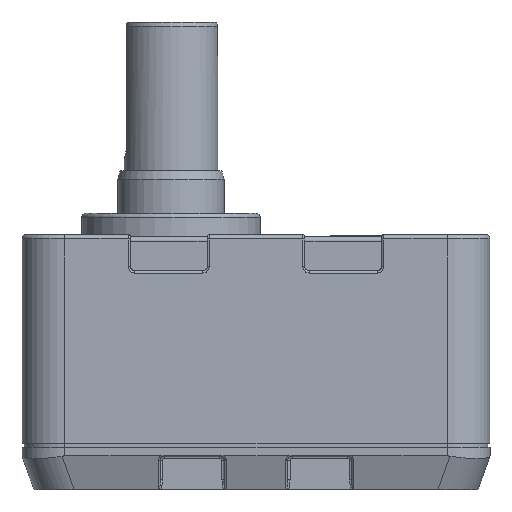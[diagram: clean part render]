
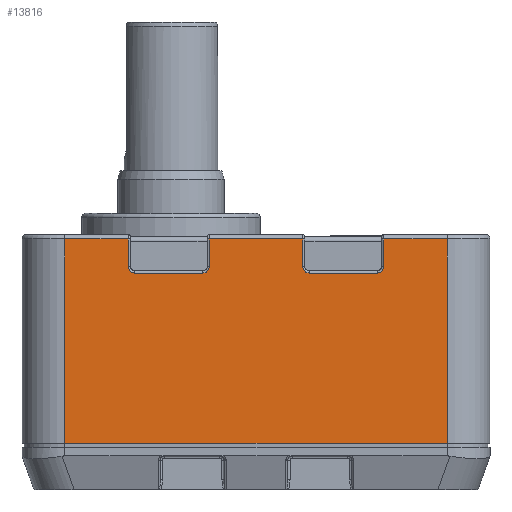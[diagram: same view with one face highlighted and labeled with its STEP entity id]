
A CAD part, left-side view. The second image highlights one B-rep face of the part: STEP entity #13816.
In plain terms, the highlighted planar face has unit normal (-1, 0, 0).
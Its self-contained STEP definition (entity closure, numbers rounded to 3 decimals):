
#9999=CARTESIAN_POINT('',(-110.0,25.,18.348));
#10000=VERTEX_POINT('',#9999);
#10033=CARTESIAN_POINT('',(-110.0,25.,11.848));
#10034=VERTEX_POINT('',#10033);
#10042=CARTESIAN_POINT('',(-110.0,25.,11.848));
#10043=DIRECTION('',(0.0,0.0,1.0));
#10044=VECTOR('',#10043,6.5);
#10045=LINE('',#10042,#10044);
#10046=EDGE_CURVE('',#10034,#10000,#10045,.T.);
#10065=CARTESIAN_POINT('',(-110.0,26.5,10.348));
#10066=VERTEX_POINT('',#10065);
#10074=CARTESIAN_POINT('',(-110.0,26.5,11.848));
#10075=DIRECTION('',(-1.,0.,0.));
#10076=DIRECTION('',(0.,-0.707,-0.707));
#10077=AXIS2_PLACEMENT_3D('',#10074,#10075,#10076);
#10078=CIRCLE('',#10077,1.5);
#10079=EDGE_CURVE('',#10066,#10034,#10078,.T.);
#10099=CARTESIAN_POINT('',(-110.0,42.5,10.348));
#10100=VERTEX_POINT('',#10099);
#10108=CARTESIAN_POINT('',(-110.0,42.5,10.348));
#10109=DIRECTION('',(0.0,-1.0,0.0));
#10110=VECTOR('',#10109,16.);
#10111=LINE('',#10108,#10110);
#10112=EDGE_CURVE('',#10100,#10066,#10111,.T.);
#10131=CARTESIAN_POINT('',(-110.0,44.,11.848));
#10132=VERTEX_POINT('',#10131);
#10140=CARTESIAN_POINT('',(-110.0,42.5,11.848));
#10141=DIRECTION('',(-1.,0.,0.));
#10142=DIRECTION('',(0.,0.707,-0.707));
#10143=AXIS2_PLACEMENT_3D('',#10140,#10141,#10142);
#10144=CIRCLE('',#10143,1.5);
#10145=EDGE_CURVE('',#10132,#10100,#10144,.T.);
#10165=CARTESIAN_POINT('',(-110.0,44.,18.348));
#10166=VERTEX_POINT('',#10165);
#10174=CARTESIAN_POINT('',(-110.0,44.,18.348));
#10175=DIRECTION('',(0.0,0.0,-1.0));
#10176=VECTOR('',#10175,6.5);
#10177=LINE('',#10174,#10176);
#10178=EDGE_CURVE('',#10166,#10132,#10177,.T.);
#10421=CARTESIAN_POINT('',(-110.0,66.,18.348));
#10422=VERTEX_POINT('',#10421);
#10455=CARTESIAN_POINT('',(-110.0,66.,11.848));
#10456=VERTEX_POINT('',#10455);
#10464=CARTESIAN_POINT('',(-110.0,66.,11.848));
#10465=DIRECTION('',(0.0,0.0,1.0));
#10466=VECTOR('',#10465,6.5);
#10467=LINE('',#10464,#10466);
#10468=EDGE_CURVE('',#10456,#10422,#10467,.T.);
#10487=CARTESIAN_POINT('',(-110.0,67.5,10.348));
#10488=VERTEX_POINT('',#10487);
#10496=CARTESIAN_POINT('',(-110.0,67.5,11.848));
#10497=DIRECTION('',(-1.,0.,0.));
#10498=DIRECTION('',(0.,-0.707,-0.707));
#10499=AXIS2_PLACEMENT_3D('',#10496,#10497,#10498);
#10500=CIRCLE('',#10499,1.5);
#10501=EDGE_CURVE('',#10488,#10456,#10500,.T.);
#10521=CARTESIAN_POINT('',(-110.,83.5,10.348));
#10522=VERTEX_POINT('',#10521);
#10530=CARTESIAN_POINT('',(-110.,83.5,10.348));
#10531=DIRECTION('',(0.0,-1.0,0.0));
#10532=VECTOR('',#10531,16.);
#10533=LINE('',#10530,#10532);
#10534=EDGE_CURVE('',#10522,#10488,#10533,.T.);
#10553=CARTESIAN_POINT('',(-110.,85.,11.848));
#10554=VERTEX_POINT('',#10553);
#10562=CARTESIAN_POINT('',(-110.,83.5,11.848));
#10563=DIRECTION('',(-1.,0.,0.));
#10564=DIRECTION('',(0.,0.707,-0.707));
#10565=AXIS2_PLACEMENT_3D('',#10562,#10563,#10564);
#10566=CIRCLE('',#10565,1.5);
#10567=EDGE_CURVE('',#10554,#10522,#10566,.T.);
#10587=CARTESIAN_POINT('',(-110.,85.,18.348));
#10588=VERTEX_POINT('',#10587);
#10596=CARTESIAN_POINT('',(-110.,85.,18.348));
#10597=DIRECTION('',(0.0,0.0,-1.0));
#10598=VECTOR('',#10597,6.5);
#10599=LINE('',#10596,#10598);
#10600=EDGE_CURVE('',#10588,#10554,#10599,.T.);
#13719=CARTESIAN_POINT('',(-110.,100.,18.348));
#13720=VERTEX_POINT('',#13719);
#13728=CARTESIAN_POINT('',(-110.,100.,18.348));
#13729=DIRECTION('',(0.0,-1.0,0.0));
#13730=VECTOR('',#13729,15.);
#13731=LINE('',#13728,#13730);
#13732=EDGE_CURVE('',#13720,#10588,#13731,.T.);
#13743=CARTESIAN_POINT('',(-110.0,10.,18.348));
#13744=VERTEX_POINT('',#13743);
#13745=CARTESIAN_POINT('',(-110.0,25.,18.348));
#13746=DIRECTION('',(0.0,-1.0,0.0));
#13747=VECTOR('',#13746,15.0);
#13748=LINE('',#13745,#13747);
#13749=EDGE_CURVE('',#10000,#13744,#13748,.T.);
#13769=CARTESIAN_POINT('',(-110.,110.,-29.652));
#13770=DIRECTION('',(-1.0,0.0,0.0));
#13771=DIRECTION('',(0.0,0.0,-1.0));
#13772=AXIS2_PLACEMENT_3D('',#13769,#13770,#13771);
#13773=PLANE('',#13772);
#13774=ORIENTED_EDGE('',*,*,#10600,.F.);
#13775=ORIENTED_EDGE('',*,*,#13732,.F.);
#13776=CARTESIAN_POINT('',(-110.,100.,-29.652));
#13777=VERTEX_POINT('',#13776);
#13778=CARTESIAN_POINT('',(-110.,100.,-29.652));
#13779=DIRECTION('',(0.0,0.0,1.0));
#13780=VECTOR('',#13779,48.);
#13781=LINE('',#13778,#13780);
#13782=EDGE_CURVE('',#13777,#13720,#13781,.T.);
#13783=ORIENTED_EDGE('',*,*,#13782,.F.);
#13784=CARTESIAN_POINT('',(-110.,10.,-29.652));
#13785=VERTEX_POINT('',#13784);
#13786=CARTESIAN_POINT('',(-110.,100.,-29.652));
#13787=DIRECTION('',(0.0,-1.0,0.0));
#13788=VECTOR('',#13787,90.0);
#13789=LINE('',#13786,#13788);
#13790=EDGE_CURVE('',#13777,#13785,#13789,.T.);
#13791=ORIENTED_EDGE('',*,*,#13790,.T.);
#13792=CARTESIAN_POINT('',(-110.0,10.,18.348));
#13793=DIRECTION('',(0.0,0.0,-1.0));
#13794=VECTOR('',#13793,48.0);
#13795=LINE('',#13792,#13794);
#13796=EDGE_CURVE('',#13744,#13785,#13795,.T.);
#13797=ORIENTED_EDGE('',*,*,#13796,.F.);
#13798=ORIENTED_EDGE('',*,*,#13749,.F.);
#13799=ORIENTED_EDGE('',*,*,#10046,.F.);
#13800=ORIENTED_EDGE('',*,*,#10079,.F.);
#13801=ORIENTED_EDGE('',*,*,#10112,.F.);
#13802=ORIENTED_EDGE('',*,*,#10145,.F.);
#13803=ORIENTED_EDGE('',*,*,#10178,.F.);
#13804=CARTESIAN_POINT('',(-110.,66.,18.348));
#13805=DIRECTION('',(0.0,-1.0,0.0));
#13806=VECTOR('',#13805,22.);
#13807=LINE('',#13804,#13806);
#13808=EDGE_CURVE('',#10422,#10166,#13807,.T.);
#13809=ORIENTED_EDGE('',*,*,#13808,.F.);
#13810=ORIENTED_EDGE('',*,*,#10468,.F.);
#13811=ORIENTED_EDGE('',*,*,#10501,.F.);
#13812=ORIENTED_EDGE('',*,*,#10534,.F.);
#13813=ORIENTED_EDGE('',*,*,#10567,.F.);
#13814=EDGE_LOOP('',(#13774,#13775,#13783,#13791,#13797,#13798,#13799,#13800,#13801,#13802,#13803,#13809,#13810,#13811,#13812,#13813));
#13815=FACE_OUTER_BOUND('',#13814,.T.);
#13816=ADVANCED_FACE('',(#13815),#13773,.T.);
